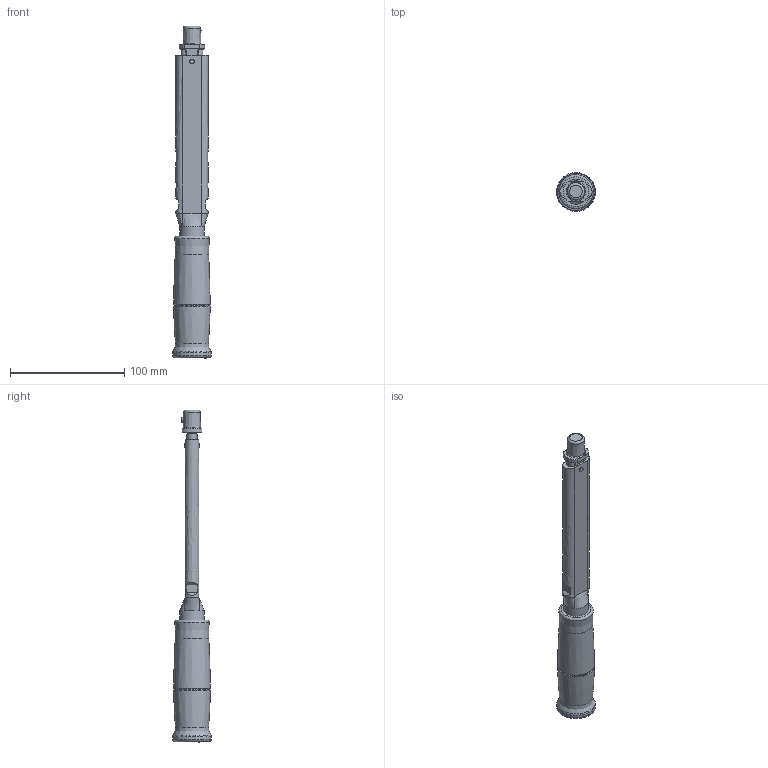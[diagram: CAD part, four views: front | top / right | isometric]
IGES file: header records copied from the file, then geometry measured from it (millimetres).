
Global section: file name: BCSP70NX15D_Shrinkwrap_1; native system: Autodesk Inventor 2018; preprocessor: unknown; author: Q618; date: 20180621.161936; units: millimetre
Bounding box: 34 x 33.98 x 290 mm (x, y, z)
Volume: 133632 mm3; surface area: 25112.1 mm2
Topology: 3 solids, 3 shells, 91 faces, 241 edges, 164 vertices
Faces by surface type: bspline 91
